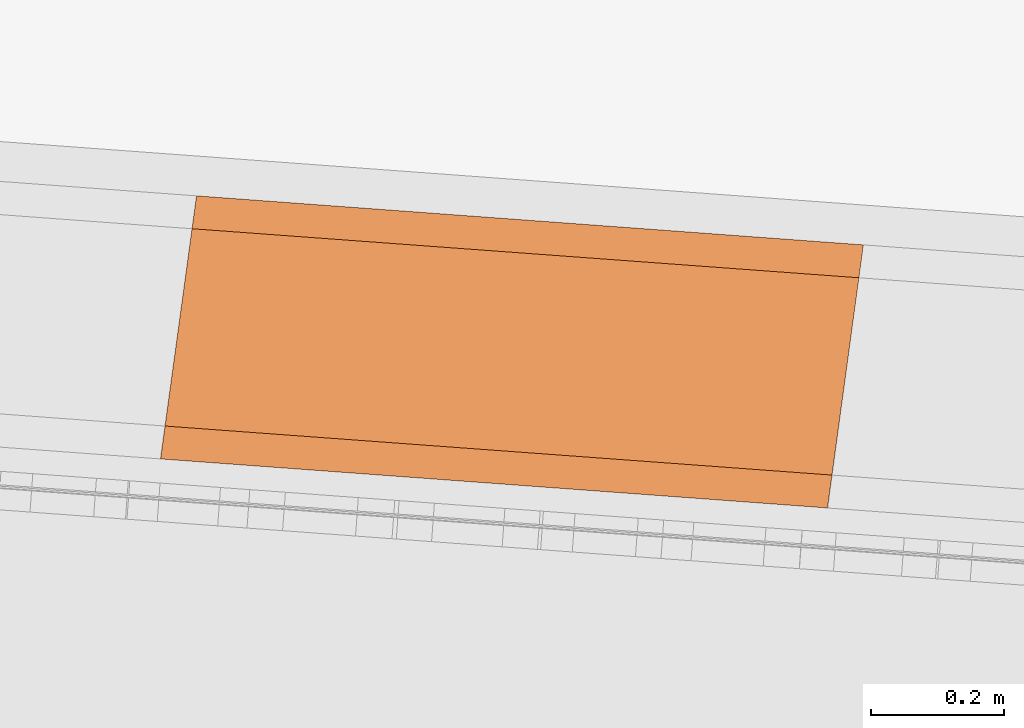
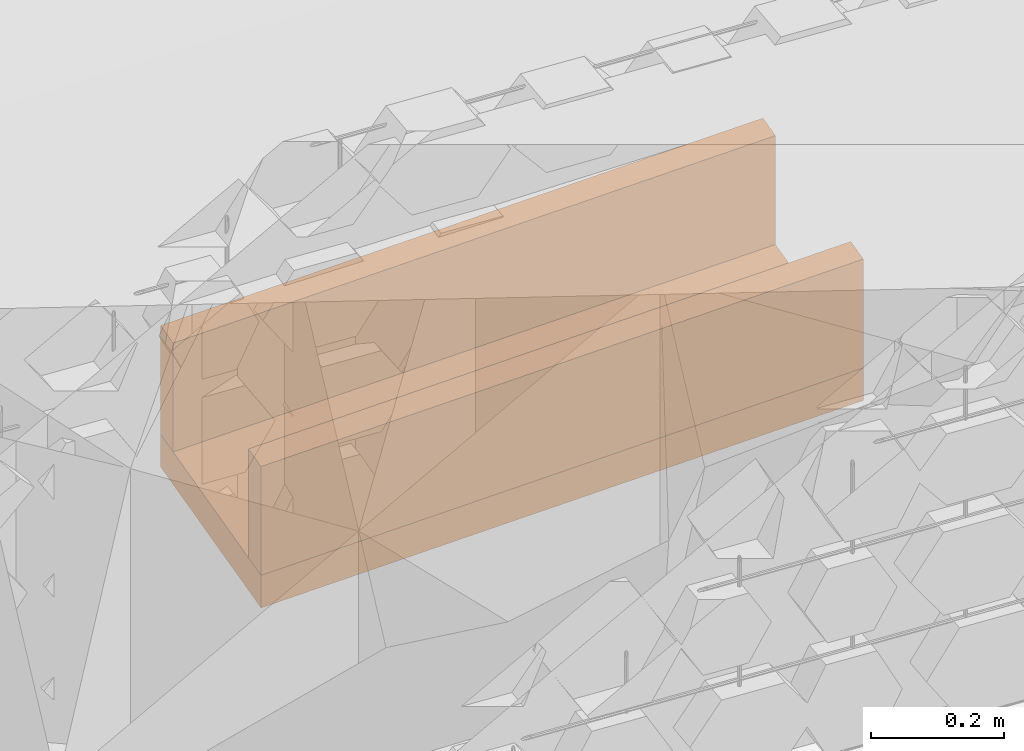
# Not in any storey, part 24 of 46: 3 proxies.
"""IFC4 model written with IfcOpenShell, lengths in metres."""

from ifc_helpers import new_model, si_unit, direction, frame, origin_with_axes, place, context, subcontext, project, spatial, polygons, material, element, save


model = new_model("IFC4")

# Units and contexts
model_context = context("Model", 3, precision=1e-05, world=origin_with_axes(), true_north=direction((0.0, 1.0)))
body_context = subcontext(model_context, "Body", "Model", "MODEL_VIEW")
ifc_project = project(units=[si_unit("VOLUMEUNIT", "CUBIC_METRE"), si_unit("LENGTHUNIT", "METRE"), si_unit("AREAUNIT", "SQUARE_METRE")], contexts=[model_context])

# Site
site_placement = place(None, origin_with_axes())
site = spatial("IfcSite", under=ifc_project, at=site_placement, Name="Lares · Rua das Mercês · artigo 4771")

# Proxies
ifc_material = material(Name="Caleiras · betão", Category="concrete")
proxy_1_placement = place(site_placement, frame((0.0, 0.0, 0.0), z_axis=(0.0, 0.0, 1.0), x_axis=(1.0, -1.03767253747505e-17, 0.0)))
element("IfcBuildingElementProxy", 1, at=proxy_1_placement, inside=site, material=ifc_material, Name="Acesso · canal lateral", ObjectType="Acesso · canal lateral", PredefinedType="USERDEFINED", context=body_context, shape_type="Tessellation", body=[
    polygons([(56.6177428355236, 2.00831751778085, 13.9322902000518), (56.6718881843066, 2.40463592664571, 13.9322902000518), (57.6765479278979, 2.33075710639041, 14.0067482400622), (57.622402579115, 1.93443869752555, 14.0067482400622), (56.6177428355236, 2.00831751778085, 13.9922902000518), (56.6718881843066, 2.40463592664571, 13.9922902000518), (57.6765479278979, 2.33075710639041, 14.0667482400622), (57.622402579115, 1.93443869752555, 14.0667482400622)], [[[4, 3, 2, 1]], [[5, 6, 7, 8]], [[1, 2, 6, 5]], [[2, 3, 7, 6]], [[3, 4, 8, 7]], [[4, 1, 5, 8]]]),
])
proxy_2_placement = place(site_placement, frame((0.0, 0.0, 0.0), z_axis=(0.0, 0.0, 1.0), x_axis=(1.0, -1.03767253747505e-17, 0.0)))
element("IfcBuildingElementProxy", 2, at=proxy_2_placement, inside=site, material=ifc_material, Name="Acesso · canal lateral", ObjectType="Acesso · canal lateral", PredefinedType="USERDEFINED", context=body_context, shape_type="Tessellation", body=[
    polygons([(56.6177428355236, 2.00831751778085, 13.9922902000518), (56.6245110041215, 2.05785731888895, 13.9922902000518), (57.6291707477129, 1.98397849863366, 14.0667482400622), (57.622402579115, 1.93443869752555, 14.0667482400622), (56.6177428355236, 2.00831751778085, 14.1922902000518), (56.6245110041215, 2.05785731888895, 14.1922902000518), (57.6291707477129, 1.98397849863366, 14.2667482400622), (57.622402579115, 1.93443869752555, 14.2667482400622)], [[[4, 3, 2, 1]], [[5, 6, 7, 8]], [[1, 2, 6, 5]], [[2, 3, 7, 6]], [[3, 4, 8, 7]], [[4, 1, 5, 8]]]),
])
proxy_3_placement = place(site_placement, frame((0.0, 0.0, 0.0), z_axis=(0.0, 0.0, 1.0), x_axis=(1.0, -1.03767253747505e-17, 0.0)))
element("IfcBuildingElementProxy", 3, at=proxy_3_placement, inside=site, material=ifc_material, Name="Acesso · canal lateral", ObjectType="Acesso · canal lateral", PredefinedType="USERDEFINED", context=body_context, shape_type="Tessellation", body=[
    polygons([(56.6651200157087, 2.3550961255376, 13.9922902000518), (56.6718881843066, 2.40463592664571, 13.9922902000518), (57.6765479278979, 2.33075710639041, 14.0667482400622), (57.6697797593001, 2.28121730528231, 14.0667482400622), (56.6651200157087, 2.3550961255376, 14.1922902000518), (56.6718881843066, 2.40463592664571, 14.1922902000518), (57.6765479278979, 2.33075710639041, 14.2667482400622), (57.6697797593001, 2.28121730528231, 14.2667482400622)], [[[4, 3, 2, 1]], [[5, 6, 7, 8]], [[1, 2, 6, 5]], [[2, 3, 7, 6]], [[3, 4, 8, 7]], [[4, 1, 5, 8]]]),
])

save(model, "model.ifc")
